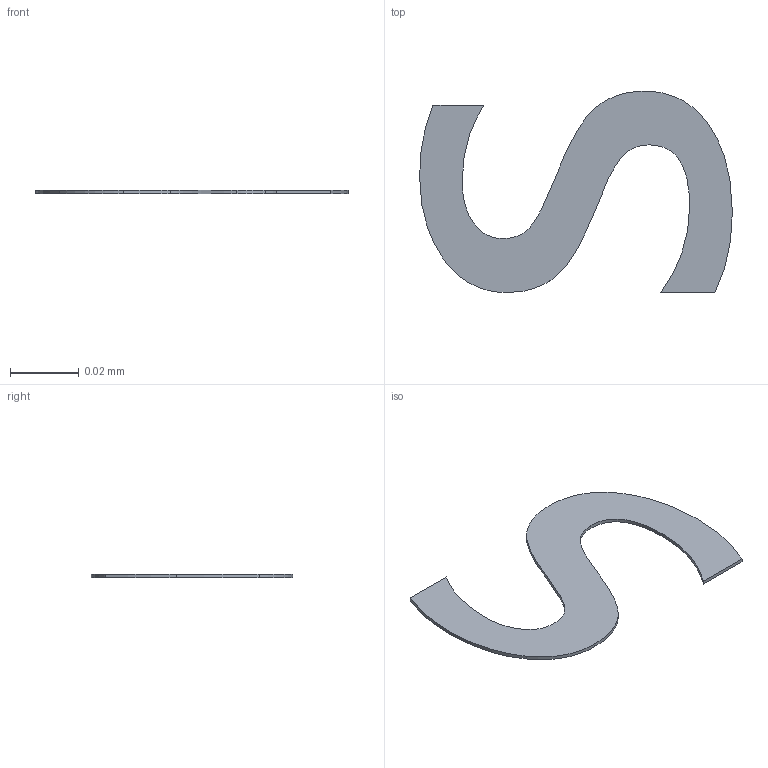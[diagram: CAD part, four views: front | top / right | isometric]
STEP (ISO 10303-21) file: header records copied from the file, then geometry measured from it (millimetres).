
FILE_DESCRIPTION(/* description */ ('STEP AP242 Edition 2','CAx-IF Rec.Pracs.---Representation and Presentation of Product Manufacturing Information (PMI)---4.0---2014-10-13','CAx-IF Rec.Pracs.---3D Tessellated Geometry---0.4---2014-09-14','2;1','CAx-IF Rec.Pracs.---User Defined Attributes---1.5---2016-08-15'),/* implementation_level */ '2;1');
FILE_NAME(/* name */ 'Assembly 1 - SOT-223_L6.5-W3.5-P2.30-LS7.0-BR~SOT-223-4P_L6.5-W3.5-H1.6-LS7.0-P2.30~nxQB (4)',/* time_stamp */ '2026-04-02T09:55:23Z',/* author */ (''),/* organization */ (''),/* preprocessor_version */ 'ST-DEVELOPER v20',/* originating_system */ 'ONSHAPE BY PTC INC, 1.212',/* authorisation */ ' ');
FILE_SCHEMA (('AP242_MANAGED_MODEL_BASED_3D_ENGINEERING_MIM_LF { 1 0 10303 442 3 1 4 }'));
Length unit declared in the file: metre
Products named in the file (1): SOT-223_L6.5-W3.5-P2.30-LS7.0-BR~SOT-223-4P_L6.5-W3.5-H1.6-LS7.0-P2.3
0~nxQB
Bounding box: 0.09 x 0.06 x 0 mm (x, y, z)
Volume: 0 mm3; surface area: 0 mm2
Topology: 1 solids, 1 shells, 23 faces, 63 edges, 42 vertices
Faces by surface type: bspline 19, plane 4
Entity records: 1015 total; most frequent: CARTESIAN_POINT 376, ORIENTED_EDGE 126, EDGE_CURVE 63, VERTEX_POINT 42, B_SPLINE_CURVE_WITH_KNOTS 38, DIRECTION 35, LINE 25, VECTOR 25
